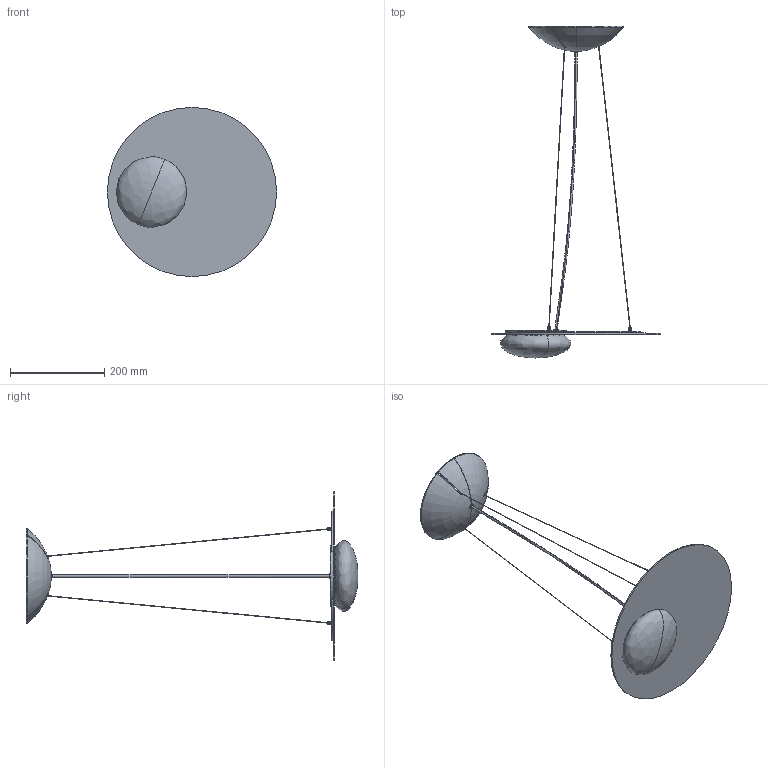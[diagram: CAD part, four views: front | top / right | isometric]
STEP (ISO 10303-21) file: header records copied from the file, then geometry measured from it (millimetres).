
FILE_DESCRIPTION (( 'STEP AP203' ), '1' );
FILE_NAME ('KWIC_Suspension_360.STEP', '2019-07-25T13:31:18', ( '' ), ( '' ), 'SwSTEP 2.0', 'SolidWorks 2019', '' );
FILE_SCHEMA (( 'CONFIG_CONTROL_DESIGN' ));
Length unit declared in the file: millimetre
Products named in the file (16): WSAXO069VEAA020000.STEP; WSASS-000000012-45_KWIC.STEP; KWIC_Suspension_360.STEP; KWIC_DISC_Sospensione 360.STEP; Part5^KWIC_Suspension.STEP; sicura_M4.STEP; KWIC_BackDiffuserSuspension.STEP; ISO7380_M3_H03.STEP; KWIC_disc_360.STEP; WSCM2D0003-0128-01.STEP; WSCM1E0001-0145-00.STEP; KWIC_Suspension_360; KWIC_SuspensionInterface.STEP; nipples_STEAB_5475-3_5475-3-07-0-11.STEP; WSCM2F0004-0100-00.STEP; Part6^KWIC_Suspension.STEP
Assembly tree (19 placements, depth 5):
  KWIC_Suspension_360
    KWIC_Suspension_360.STEP
      KWIC_DISC_Sospensione 360.STEP
        KWIC_disc_360.STEP
        WSAXO069VEAA020000.STEP
        KWIC_BackDiffuserSuspension.STEP
        ISO7380_M3_H03.STEP
      WSASS-000000012-45_KWIC.STEP
        WSCM1E0001-0145-00.STEP
          WSCM2F0004-0100-00.STEP
        WSCM2D0003-0128-01.STEP
      KWIC_SuspensionInterface.STEP
      sicura_M4.STEP  x3
      Part5^KWIC_Suspension.STEP  x3
      Part6^KWIC_Suspension.STEP
      nipples_STEAB_5475-3_5475-3-07-0-11.STEP
Bounding box: 360 x 706 x 360 mm (x, y, z)
Volume: 700371.8 mm3; surface area: 548099 mm2
Topology: 15 solids, 15 shells, 657 faces, 1757 edges, 1142 vertices
Faces by surface type: cylinder 310, plane 249, cone 48, torus 40, bspline 8, sphere 2
Entity records: 17497 total; most frequent: CARTESIAN_POINT 4060, DIRECTION 2603, ORIENTED_EDGE 2350, EDGE_CURVE 1175, AXIS2_PLACEMENT_3D 1043, VERTEX_POINT 762, CIRCLE 582, EDGE_LOOP 563
